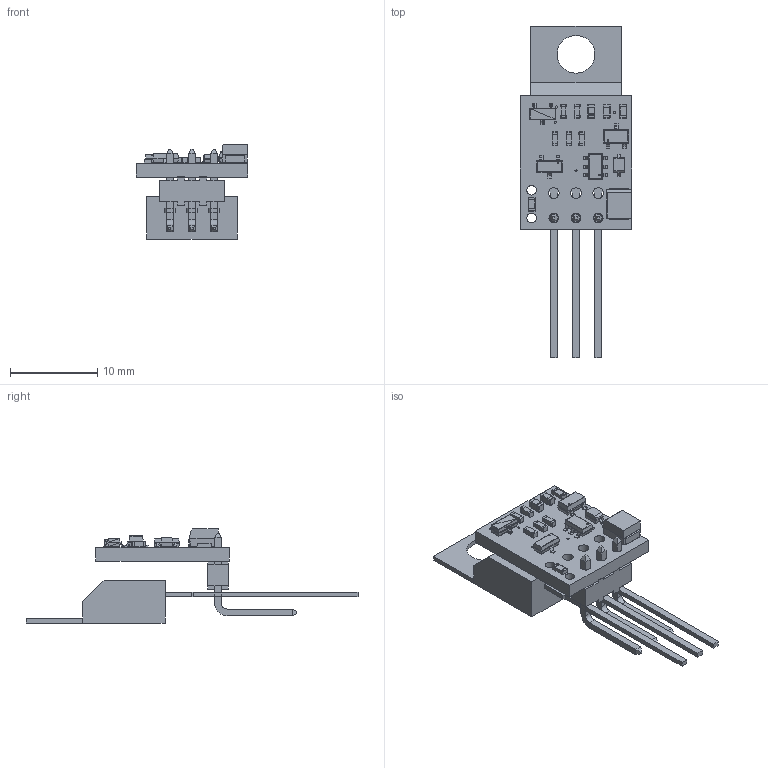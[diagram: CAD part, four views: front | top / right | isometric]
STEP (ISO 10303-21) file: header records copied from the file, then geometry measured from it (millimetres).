
FILE_DESCRIPTION(('for SolidWorks'),'2;1');
FILE_NAME('C:\www\opencart-4.1.0.3\ImagesForSite\3D_models\SPX17_2025-10-08.step','2026-09-23T21:15:50',('B'),(''), 'Open CASCADE STEP processor 6.6','DipTrace','Unknown');
FILE_SCHEMA(('AUTOMOTIVE_DESIGN { 1 0 10303 214 1 1 1 1 }'));
Length unit declared in the file: millimetre
Products named in the file (14): PCB_SPX17_2025-10-08; Board_SPX17_2025-10-08; TCJB106M035R0200; 06031C104KAT2A; 10uF_6.3V_20%Tantalum_0603; MM3Z5V6ST1G; Molex_3pin_hdr_22122031; LT1806CS6#TRMPBF; TSM650P03CX_RFG; MJF45H11G; BSS159NH6327XTSA2; res_0603; ERA-3APB103V; sot23
Assembly tree (18 placements, depth 2):
  PCB_SPX17_2025-10-08
    Board_SPX17_2025-10-08
    TCJB106M035R0200
    06031C104KAT2A
    10uF_6.3V_20%Tantalum_0603
    MM3Z5V6ST1G
    Molex_3pin_hdr_22122031
    LT1806CS6#TRMPBF
    TSM650P03CX_RFG
    MJF45H11G
    BSS159NH6327XTSA2
    res_0603  x5
    ERA-3APB103V  x2
    sot23
Bounding box: 12.7 x 37.96 x 10.77 mm (x, y, z)
Volume: 369.4 mm3; surface area: 1638.9 mm2
Topology: 11 solids, 60 shells, 1069 faces, 2405 edges, 1454 vertices
Faces by surface type: plane 913, cylinder 140, sphere 16
Full cylindrical faces by diameter (mm): 0.163 x1, 0.2 x1, 0.203 x1, 0.254 x2, 1.1 x5, 1.219 x3, 4.313 x1
Entity records: 27927 total; most frequent: CARTESIAN_POINT 3863, DIRECTION 3861, ORIENTED_EDGE 3738, EDGE_CURVE 1869, LINE 1629, VECTOR 1629, VERTEX_POINT 1118, AXIS2_PLACEMENT_3D 1116
